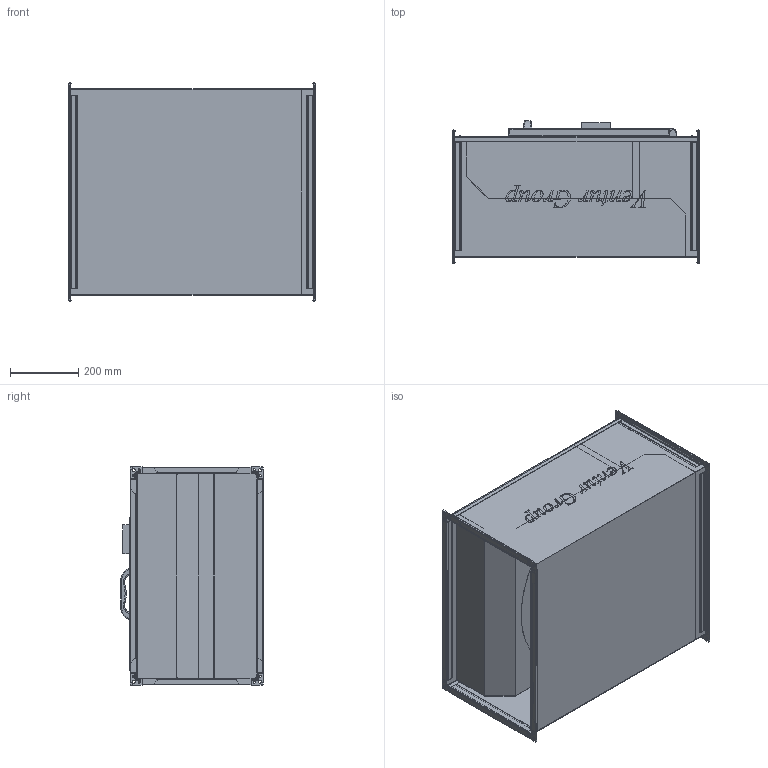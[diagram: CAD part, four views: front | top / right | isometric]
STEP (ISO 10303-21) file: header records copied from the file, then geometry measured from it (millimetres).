
FILE_DESCRIPTION(/* description */ (''),/* implementation_level */ '2;1');
FILE_NAME(/* name */ 'C:\Users\M.Janczarek\Documents\Modele uproszczone\IBF\IBF4_355S 41010062\IBF4_355S 41010062\IBF4_355S 41010062.stp',/* time_stamp */ '2018-03-23T11:42:52+01:00',/* author */ ('M.Janczarek'),/* organization */ (''),/* preprocessor_version */ 'ST-DEVELOPER v16.5',/* originating_system */ 'Autodesk Inventor 2017',/* authorisation */ '');
FILE_SCHEMA (('AUTOMOTIVE_DESIGN { 1 0 10303 214 3 1 1 }'));
Products named in the file (1): IBF4_355S 41010062
Bounding box: 723.6 x 417.99 x 639.97 mm (x, y, z)
Volume: 17225376.2 mm3; surface area: 5427815.9 mm2
Topology: 1 solids, 2 shells, 1757 faces, 5064 edges, 3257 vertices
Faces by surface type: plane 844, cylinder 474, bspline 331, torus 64, cone 28, sphere 16
Full cylindrical faces by diameter (mm): 6 x16, 9 x8, 240 x1, 327.4 x1
Entity records: 65326 total; most frequent: CARTESIAN_POINT 19136, ORIENTED_EDGE 10060, DIRECTION 8369, EDGE_CURVE 5030, VERTEX_POINT 3265, LINE 3203, VECTOR 3203, AXIS2_PLACEMENT_3D 2583
